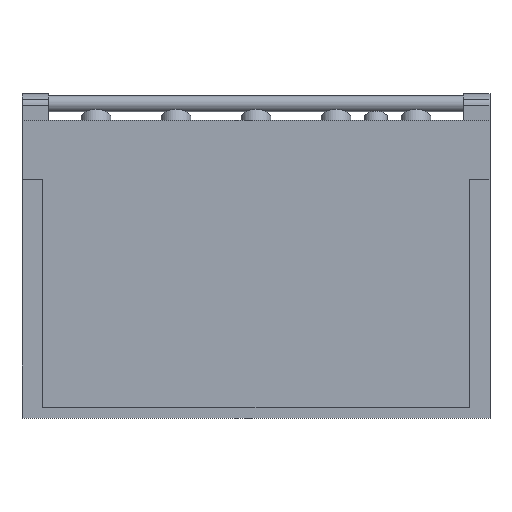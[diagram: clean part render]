
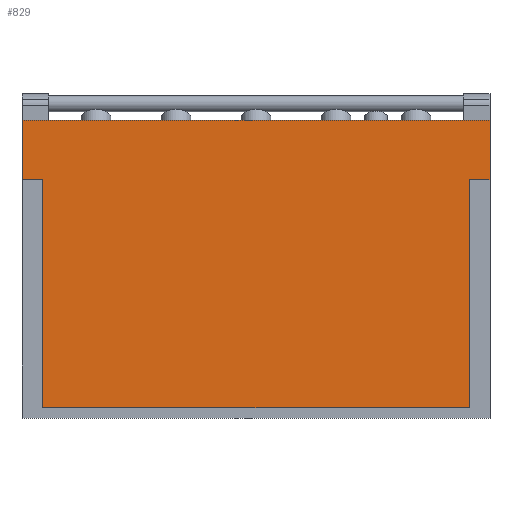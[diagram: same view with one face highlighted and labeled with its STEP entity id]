
A CAD part, front view. The second image highlights one B-rep face of the part: STEP entity #829.
In plain terms, the highlighted planar face has unit normal (0, -1, 0).
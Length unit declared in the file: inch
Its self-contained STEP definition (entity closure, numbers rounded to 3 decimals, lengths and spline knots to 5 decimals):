
#12 = EDGE_CURVE ( 'NONE', #1030, #877, #889, .T. ) ;
#48 = LINE ( 'NONE', #49, #711 ) ;
#49 = CARTESIAN_POINT ( 'NONE',  ( -19.75, -9.48387, 13.58492 ) ) ;
#53 = DIRECTION ( 'NONE',  ( 0., 0., -1. ) ) ;
#159 = CARTESIAN_POINT ( 'NONE',  ( 19.75, -9.48387, 13.58492 ) ) ;
#167 = LINE ( 'NONE', #687, #1067 ) ;
#176 = ORIENTED_EDGE ( 'NONE', *, *, #411, .F. ) ;
#183 = ORIENTED_EDGE ( 'NONE', *, *, #695, .T. ) ;
#184 = DIRECTION ( 'NONE',  ( 1., 0., 0. ) ) ;
#189 = ORIENTED_EDGE ( 'NONE', *, *, #1409, .F. ) ;
#197 = EDGE_CURVE ( 'NONE', #877, #613, #48, .T. ) ;
#215 = VECTOR ( 'NONE', #1282, 39.37008 ) ;
#223 = LINE ( 'NONE', #751, #215 ) ;
#231 = LINE ( 'NONE', #260, #1544 ) ;
#260 = CARTESIAN_POINT ( 'NONE',  ( -18., -9.48387, 8.58492 ) ) ;
#267 = VECTOR ( 'NONE', #1506, 39.37008 ) ;
#274 = DIRECTION ( 'NONE',  ( -1., 0., 0. ) ) ;
#291 = VECTOR ( 'NONE', #915, 39.37008 ) ;
#297 = VERTEX_POINT ( 'NONE', #783 ) ;
#387 = LINE ( 'NONE', #396, #1546 ) ;
#396 = CARTESIAN_POINT ( 'NONE',  ( 18., -9.48387, -10.6745 ) ) ;
#411 = EDGE_CURVE ( 'NONE', #572, #613, #231, .T. ) ;
#413 = EDGE_CURVE ( 'NONE', #297, #1428, #387, .T. ) ;
#450 = CARTESIAN_POINT ( 'NONE',  ( -18., -9.48387, -10.6745 ) ) ;
#466 = DIRECTION ( 'NONE',  ( 0., 1., 0. ) ) ;
#484 = AXIS2_PLACEMENT_3D ( 'NONE', #1595, #466, #1028 ) ;
#498 = LINE ( 'NONE', #1061, #267 ) ;
#524 = DIRECTION ( 'NONE',  ( 0., 0., -1. ) ) ;
#572 = VERTEX_POINT ( 'NONE', #1386 ) ;
#583 = ORIENTED_EDGE ( 'NONE', *, *, #413, .F. ) ;
#595 = FACE_OUTER_BOUND ( 'NONE', #652, .T. ) ;
#613 = VERTEX_POINT ( 'NONE', #1068 ) ;
#652 = EDGE_LOOP ( 'NONE', ( #176, #183, #189, #583, #763, #937, #954, #966 ) ) ;
#667 = VERTEX_POINT ( 'NONE', #1337 ) ;
#687 = CARTESIAN_POINT ( 'NONE',  ( -18., -9.48387, -10.6745 ) ) ;
#695 = EDGE_CURVE ( 'NONE', #572, #1300, #167, .T. ) ;
#711 = VECTOR ( 'NONE', #53, 39.37008 ) ;
#734 = EDGE_CURVE ( 'NONE', #297, #667, #852, .T. ) ;
#751 = CARTESIAN_POINT ( 'NONE',  ( 19.75, -9.48387, -10.6745 ) ) ;
#763 = ORIENTED_EDGE ( 'NONE', *, *, #734, .T. ) ;
#783 = CARTESIAN_POINT ( 'NONE',  ( 18., -9.48387, 8.58492 ) ) ;
#829 = ADVANCED_FACE ( 'NONE', ( #595 ), #1159, .F. ) ;
#852 = LINE ( 'NONE', #1353, #1582 ) ;
#877 = VERTEX_POINT ( 'NONE', #1393 ) ;
#889 = LINE ( 'NONE', #908, #291 ) ;
#908 = CARTESIAN_POINT ( 'NONE',  ( 19.75, -9.48387, 13.58492 ) ) ;
#915 = DIRECTION ( 'NONE',  ( -1., 0., 0. ) ) ;
#937 = ORIENTED_EDGE ( 'NONE', *, *, #1542, .F. ) ;
#954 = ORIENTED_EDGE ( 'NONE', *, *, #12, .T. ) ;
#966 = ORIENTED_EDGE ( 'NONE', *, *, #197, .T. ) ;
#1028 = DIRECTION ( 'NONE',  ( 0., 0., 1. ) ) ;
#1030 = VERTEX_POINT ( 'NONE', #159 ) ;
#1061 = CARTESIAN_POINT ( 'NONE',  ( 19.75, -9.48387, 13.58492 ) ) ;
#1067 = VECTOR ( 'NONE', #1230, 39.37008 ) ;
#1068 = CARTESIAN_POINT ( 'NONE',  ( -19.75, -9.48387, 8.58492 ) ) ;
#1159 = PLANE ( 'NONE',  #484 ) ;
#1230 = DIRECTION ( 'NONE',  ( 0., 0., -1. ) ) ;
#1282 = DIRECTION ( 'NONE',  ( -1., 0., 0. ) ) ;
#1300 = VERTEX_POINT ( 'NONE', #450 ) ;
#1337 = CARTESIAN_POINT ( 'NONE',  ( 19.75, -9.48387, 8.58492 ) ) ;
#1353 = CARTESIAN_POINT ( 'NONE',  ( 18., -9.48387, 8.58492 ) ) ;
#1386 = CARTESIAN_POINT ( 'NONE',  ( -18., -9.48387, 8.58492 ) ) ;
#1393 = CARTESIAN_POINT ( 'NONE',  ( -19.75, -9.48387, 13.58492 ) ) ;
#1409 = EDGE_CURVE ( 'NONE', #1428, #1300, #223, .T. ) ;
#1428 = VERTEX_POINT ( 'NONE', #1602 ) ;
#1506 = DIRECTION ( 'NONE',  ( 0., 0., -1. ) ) ;
#1542 = EDGE_CURVE ( 'NONE', #1030, #667, #498, .T. ) ;
#1544 = VECTOR ( 'NONE', #274, 39.37008 ) ;
#1546 = VECTOR ( 'NONE', #524, 39.37008 ) ;
#1582 = VECTOR ( 'NONE', #184, 39.37008 ) ;
#1595 = CARTESIAN_POINT ( 'NONE',  ( 19.75, -9.48387, 13.58492 ) ) ;
#1602 = CARTESIAN_POINT ( 'NONE',  ( 18., -9.48387, -10.6745 ) ) ;
